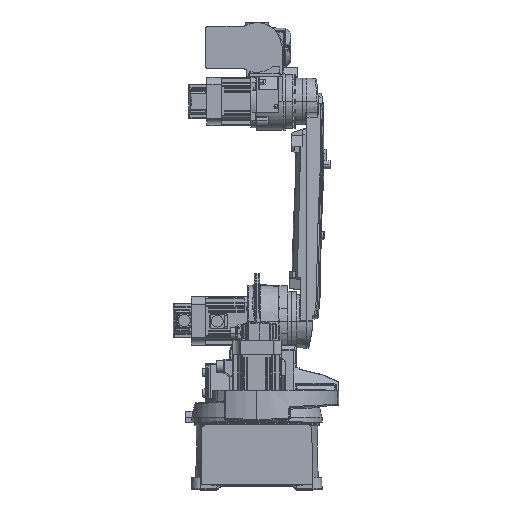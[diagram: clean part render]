
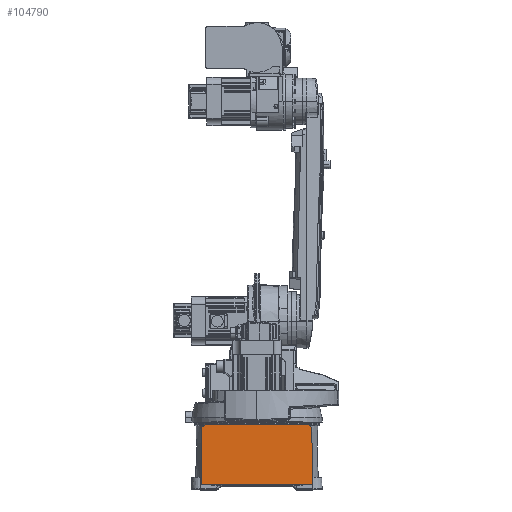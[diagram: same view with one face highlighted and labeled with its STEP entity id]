
A CAD part, top view. The second image highlights one B-rep face of the part: STEP entity #104790.
In plain terms, the highlighted planar face has unit normal (0, 0, 1).
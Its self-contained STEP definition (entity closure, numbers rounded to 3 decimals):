
#1591 = DIRECTION ( 'NONE',  ( 1., 0., 0. ) ) ;
#2775 = CARTESIAN_POINT ( 'NONE',  ( -216.901, 121.686, 293. ) ) ;
#3161 = ORIENTED_EDGE ( 'NONE', *, *, #133264, .T. ) ;
#5093 = LINE ( 'NONE', #28315, #163813 ) ;
#5377 = CARTESIAN_POINT ( 'NONE',  ( 147.312, 163.001, 293. ) ) ;
#5753 = VERTEX_POINT ( 'NONE', #83314 ) ;
#10640 = EDGE_CURVE ( 'NONE', #13993, #15691, #61272, .T. ) ;
#13993 = VERTEX_POINT ( 'NONE', #28248 ) ;
#14115 = EDGE_CURVE ( 'NONE', #5753, #151323, #170495, .T. ) ;
#14199 = EDGE_LOOP ( 'NONE', ( #121808, #73760, #109334, #166695, #69616, #131405, #44820, #117793, #3161 ) ) ;
#15691 = VERTEX_POINT ( 'NONE', #174924 ) ;
#17850 = AXIS2_PLACEMENT_3D ( 'NONE', #173408, #118641, #76632 ) ;
#21869 = CARTESIAN_POINT ( 'NONE',  ( 150., 9., 293. ) ) ;
#22126 = DIRECTION ( 'NONE',  ( -0.86, 0.511, 0. ) ) ;
#23410 = VERTEX_POINT ( 'NONE', #47316 ) ;
#24469 = DIRECTION ( 'NONE',  ( 0., 0., 1. ) ) ;
#27687 = AXIS2_PLACEMENT_3D ( 'NONE', #39117, #122342, #64582 ) ;
#28248 = CARTESIAN_POINT ( 'NONE',  ( 143.894, 9., 293. ) ) ;
#28315 = CARTESIAN_POINT ( 'NONE',  ( -150., 9., 293. ) ) ;
#28475 = VECTOR ( 'NONE', #156459, 1000. ) ;
#29164 = CARTESIAN_POINT ( 'NONE',  ( -150., 9., 293. ) ) ;
#33184 = EDGE_CURVE ( 'NONE', #87039, #5753, #130764, .T. ) ;
#34916 = CARTESIAN_POINT ( 'NONE',  ( -149.894, 15., 293. ) ) ;
#39117 = CARTESIAN_POINT ( 'NONE',  ( 143.894, 15., 293. ) ) ;
#41804 = LINE ( 'NONE', #174066, #61239 ) ;
#43555 = EDGE_CURVE ( 'NONE', #90112, #23410, #41804, .T. ) ;
#44820 = ORIENTED_EDGE ( 'NONE', *, *, #14115, .T. ) ;
#47316 = CARTESIAN_POINT ( 'NONE',  ( 137.207, 169., 293. ) ) ;
#47994 = EDGE_CURVE ( 'NONE', #103788, #13993, #5093, .T. ) ;
#50874 = CARTESIAN_POINT ( 'NONE',  ( -143.894, 9., 293. ) ) ;
#53548 = VECTOR ( 'NONE', #163963, 1000. ) ;
#59436 = CIRCLE ( 'NONE', #172087, 6. ) ;
#61239 = VECTOR ( 'NONE', #22126, 1000. ) ;
#61272 = CIRCLE ( 'NONE', #27687, 6. ) ;
#64582 = DIRECTION ( 'NONE',  ( 1., 0., 0. ) ) ;
#69616 = ORIENTED_EDGE ( 'NONE', *, *, #103175, .T. ) ;
#73760 = ORIENTED_EDGE ( 'NONE', *, *, #10640, .T. ) ;
#75995 = EDGE_CURVE ( 'NONE', #151323, #108570, #99823, .T. ) ;
#76632 = DIRECTION ( 'NONE',  ( 1., 0., 0. ) ) ;
#80057 = CARTESIAN_POINT ( 'NONE',  ( -150., 169., 293. ) ) ;
#83314 = CARTESIAN_POINT ( 'NONE',  ( -147.312, 163.001, 293. ) ) ;
#84086 = DIRECTION ( 'NONE',  ( 1., 0., 0. ) ) ;
#84749 = CARTESIAN_POINT ( 'NONE',  ( -143.894, 15., 293. ) ) ;
#86140 = DIRECTION ( 'NONE',  ( -0.017, -1., 0. ) ) ;
#87039 = VERTEX_POINT ( 'NONE', #90109 ) ;
#90109 = CARTESIAN_POINT ( 'NONE',  ( -137.207, 169., 293. ) ) ;
#90112 = VERTEX_POINT ( 'NONE', #5377 ) ;
#91657 = VECTOR ( 'NONE', #147606, 1000. ) ;
#95708 = AXIS2_PLACEMENT_3D ( 'NONE', #163020, #24469, #121662 ) ;
#99304 = DIRECTION ( 'NONE',  ( 0., 0., 1. ) ) ;
#99823 = CIRCLE ( 'NONE', #17850, 6. ) ;
#102753 = LINE ( 'NONE', #21869, #91657 ) ;
#103175 = EDGE_CURVE ( 'NONE', #23410, #87039, #123192, .T. ) ;
#103788 = VERTEX_POINT ( 'NONE', #50874 ) ;
#104790 = ADVANCED_FACE ( 'NONE', ( #172711 ), #107587, .T. ) ;
#104803 = CARTESIAN_POINT ( 'NONE',  ( -149.893, 15.105, 293. ) ) ;
#107587 = PLANE ( 'NONE',  #95708 ) ;
#108570 = VERTEX_POINT ( 'NONE', #34916 ) ;
#109334 = ORIENTED_EDGE ( 'NONE', *, *, #127889, .T. ) ;
#117793 = ORIENTED_EDGE ( 'NONE', *, *, #75995, .T. ) ;
#118641 = DIRECTION ( 'NONE',  ( 0., 0., 1. ) ) ;
#121662 = DIRECTION ( 'NONE',  ( 1., 0., 0. ) ) ;
#121808 = ORIENTED_EDGE ( 'NONE', *, *, #47994, .T. ) ;
#122342 = DIRECTION ( 'NONE',  ( 0., 0., 1. ) ) ;
#123192 = LINE ( 'NONE', #80057, #53548 ) ;
#127889 = EDGE_CURVE ( 'NONE', #15691, #90112, #102753, .T. ) ;
#130764 = LINE ( 'NONE', #2775, #28475 ) ;
#131405 = ORIENTED_EDGE ( 'NONE', *, *, #33184, .T. ) ;
#133264 = EDGE_CURVE ( 'NONE', #108570, #103788, #59436, .T. ) ;
#147606 = DIRECTION ( 'NONE',  ( -0.017, 1., 0. ) ) ;
#151323 = VERTEX_POINT ( 'NONE', #104803 ) ;
#153069 = VECTOR ( 'NONE', #86140, 1000. ) ;
#156459 = DIRECTION ( 'NONE',  ( -0.86, -0.511, 0. ) ) ;
#163020 = CARTESIAN_POINT ( 'NONE',  ( -150., 9., 293. ) ) ;
#163813 = VECTOR ( 'NONE', #84086, 1000. ) ;
#163963 = DIRECTION ( 'NONE',  ( -1., 0., 0. ) ) ;
#166695 = ORIENTED_EDGE ( 'NONE', *, *, #43555, .T. ) ;
#170495 = LINE ( 'NONE', #29164, #153069 ) ;
#172087 = AXIS2_PLACEMENT_3D ( 'NONE', #84749, #99304, #1591 ) ;
#172711 = FACE_OUTER_BOUND ( 'NONE', #14199, .T. ) ;
#173408 = CARTESIAN_POINT ( 'NONE',  ( -143.894, 15., 293. ) ) ;
#174066 = CARTESIAN_POINT ( 'NONE',  ( -4.915, 253.377, 293. ) ) ;
#174924 = CARTESIAN_POINT ( 'NONE',  ( 149.893, 15.105, 293. ) ) ;
